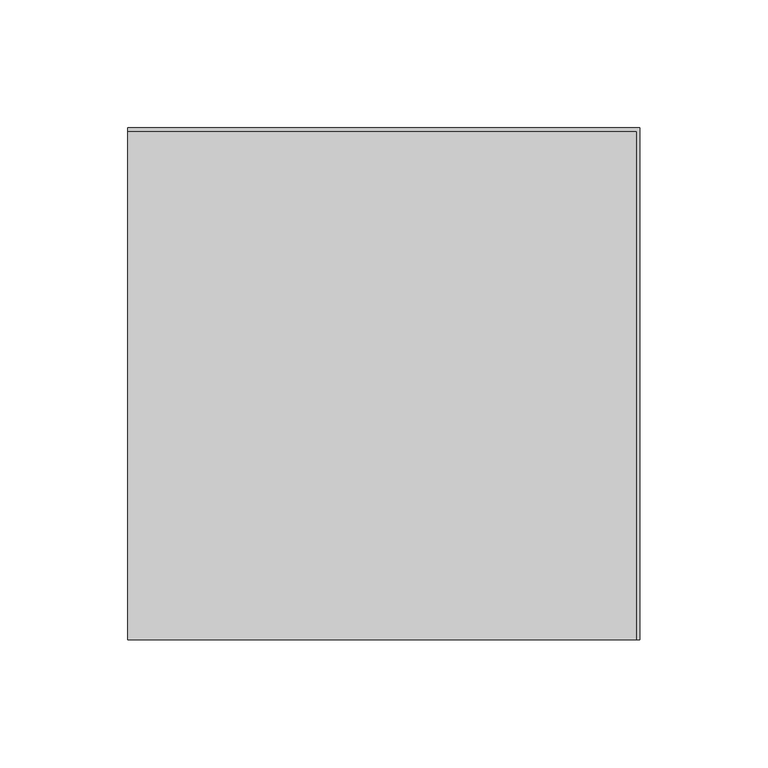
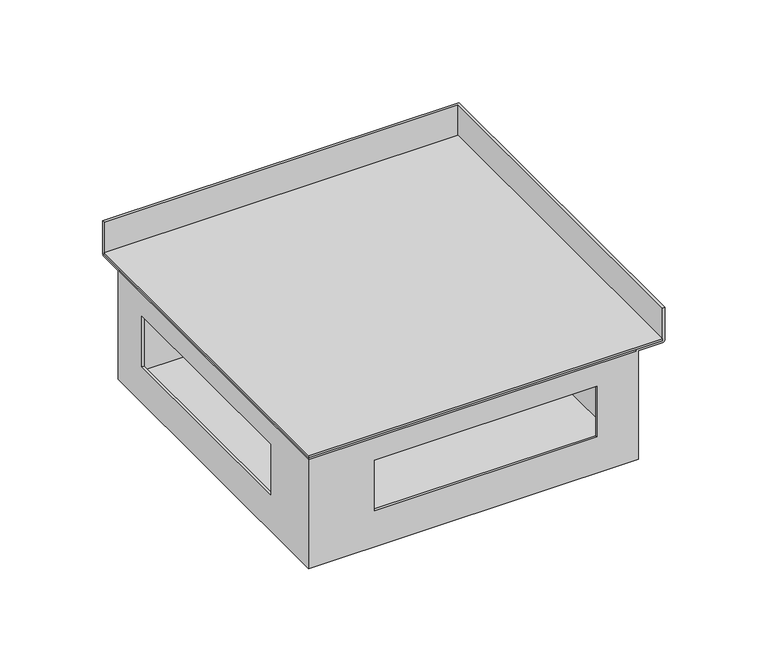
"""IFC4 building model written with IfcOpenShell, lengths in millimetres: proxy geometry, TECHNO_Угловой элемент_KVU : 200_085_90°."""

import ifcopenshell
import ifcopenshell.guid

model = None  # the IFC model being written
_history = None  # IfcOwnerHistory: only IFC2X3 demands one
_inside = {}  # id of a spatial element -> (the spatial element, [elements in it])
_under = {}  # id of a project, library or spatial element -> (it, [spatial elements below it])
_declared = {}  # id of a project -> (the project, [libraries it declares])
_typed = {}  # id of a type object -> (the type object, [elements of that type])
_made_of = {}  # id of a material, layer set ... -> (it, [elements and type objects made of it])


def new_model(schema):
    """Start an empty IFC model of exactly this schema.

    Asked for "IFC4X3", IfcOpenShell would pick the latest addendum, in which some entities
    have other attributes; the version numbers below select the first issue.
    IFC2X3 requires an IfcOwnerHistory on every rooted entity: one is made here for all.
    """
    global model, _history
    if schema == "IFC4X3":
        model = ifcopenshell.file(schema_version=(4, 3, 0, 0))
    else:
        model = ifcopenshell.file(schema=schema)
    _inside.clear()
    _under.clear()
    _declared.clear()
    _typed.clear()
    _made_of.clear()
    _history = None
    if model.schema == "IFC2X3":
        org = make("IfcOrganization", Name="unknown")
        user = make(
            "IfcPersonAndOrganization",
            ThePerson=make("IfcPerson", FamilyName="unknown"),
            TheOrganization=org,
        )
        app = make(
            "IfcApplication",
            ApplicationDeveloper=org,
            Version="unknown",
            ApplicationFullName="unknown",
            ApplicationIdentifier="unknown",
        )
        _history = make(
            "IfcOwnerHistory",
            OwningUser=user,
            OwningApplication=app,
            ChangeAction="ADDED",
            CreationDate=0,
        )
    return model


def make(cls, **values):
    """One entity of the class cls with the attributes given. An attribute that is None is left unset."""
    return model.create_entity(
        cls, **{name: value for name, value in values.items() if value is not None}
    )


def rooted(cls, **values):
    """An entity with a GlobalId (a new one), such as an element, a storey or a relation."""
    return make(cls, GlobalId=ifcopenshell.guid.new(), OwnerHistory=_history, **values)


def si_unit(unit_type, name, prefix=None):
    """IfcSIUnit, for example si_unit("LENGTHUNIT", "METRE", prefix="MILLI")."""
    return make("IfcSIUnit", UnitType=unit_type, Prefix=prefix, Name=name)


def assignment(units):
    """IfcUnitAssignment: the units of a project."""
    return None if units is None else make("IfcUnitAssignment", Units=units)


def point(xyz):
    """IfcCartesianPoint."""
    return None if xyz is None else make("IfcCartesianPoint", Coordinates=xyz)


def direction(xyz):
    """IfcDirection."""
    return None if xyz is None else make("IfcDirection", DirectionRatios=xyz)


def frame(location, z_axis=None, x_axis=None):
    """IfcAxis2Placement3D, a coordinate frame: its origin and axes. An axis left out is left unset."""
    return make(
        "IfcAxis2Placement3D",
        Location=point(location),
        Axis=direction(z_axis),
        RefDirection=direction(x_axis),
    )


def origin():
    """The frame at (0, 0, 0) with its axes left unset."""
    return frame((0.0, 0.0, 0.0))


def place(relative_to, where):
    """IfcLocalPlacement: puts the frame where relative to a parent placement (None: the world)."""
    return make(
        "IfcLocalPlacement", PlacementRelTo=relative_to, RelativePlacement=where
    )


def context(
    kind, dimensions, precision=None, world=None, true_north=None, identifier=None
):
    """IfcGeometricRepresentationContext, for example the 3D "Model" context."""
    return make(
        "IfcGeometricRepresentationContext",
        ContextIdentifier=identifier,
        ContextType=kind,
        CoordinateSpaceDimension=dimensions,
        Precision=precision,
        WorldCoordinateSystem=world,
        TrueNorth=true_north,
    )


def project(units=None, contexts=None):
    """IfcProject with its units and contexts."""
    return rooted(
        "IfcProject",
        Name="project",
        RepresentationContexts=contexts,
        UnitsInContext=assignment(units),
    )


def spatial(cls, under=None, at=None, **own):
    """A site, building, storey or space (cls), placed at a placement, below another one or the project."""
    s = rooted(cls, ObjectPlacement=at, **own)
    if under is not None:
        _under.setdefault(under.id(), (under, []))[1].append(s)
    return s


def polyline(points):
    """IfcPolyline through the points."""
    return make("IfcPolyline", Points=[point(p) for p in points])


def circle_curve(where, radius):
    """IfcCircle in the frame where."""
    return make("IfcCircle", Position=where, Radius=radius)


def ellipse_curve(where, semi_axis1, semi_axis2):
    """IfcEllipse in the frame where."""
    return make(
        "IfcEllipse", Position=where, SemiAxis1=semi_axis1, SemiAxis2=semi_axis2
    )


def outline(outer, holes=None, kind="AREA"):
    """IfcArbitraryClosedProfileDef: a profile drawn as a closed curve; with holes, ...WithVoids."""
    if holes is None:
        return make("IfcArbitraryClosedProfileDef", ProfileType=kind, OuterCurve=outer)
    return make(
        "IfcArbitraryProfileDefWithVoids",
        ProfileType=kind,
        OuterCurve=outer,
        InnerCurves=holes,
    )


def extrude(swept, where, along, depth):
    """IfcExtrudedAreaSolid: the profile swept, set in the frame where, extruded along a direction by depth."""
    return make(
        "IfcExtrudedAreaSolid",
        SweptArea=swept,
        Position=where,
        ExtrudedDirection=direction(along),
        Depth=depth,
    )


def shape(context_of_items, identifier, shape_type, items):
    """IfcShapeRepresentation: the items that make up one representation, for example the "Body"."""
    return make(
        "IfcShapeRepresentation",
        ContextOfItems=context_of_items,
        RepresentationIdentifier=identifier,
        RepresentationType=shape_type,
        Items=items,
    )


def source(mapping_origin, context_of_items, identifier, shape_type, items):
    """IfcRepresentationMap: a shape defined once, which mapped items show again and again."""
    return make(
        "IfcRepresentationMap",
        MappingOrigin=mapping_origin,
        MappedRepresentation=shape(context_of_items, identifier, shape_type, items),
    )


def transform(
    local_origin,
    x_axis=None,
    y_axis=None,
    z_axis=None,
    scale=None,
    scale2=None,
    scale3=None,
    uniform=True,
):
    """IfcCartesianTransformationOperator3D, or its non-uniform kind. x_axis, y_axis, z_axis: its Axis1, 2, 3."""
    if uniform:
        return make(
            "IfcCartesianTransformationOperator3D",
            Axis1=direction(x_axis),
            Axis2=direction(y_axis),
            LocalOrigin=point(local_origin),
            Scale=scale,
            Axis3=direction(z_axis),
        )
    return make(
        "IfcCartesianTransformationOperator3DnonUniform",
        Axis1=direction(x_axis),
        Axis2=direction(y_axis),
        LocalOrigin=point(local_origin),
        Scale=scale,
        Axis3=direction(z_axis),
        Scale2=scale2,
        Scale3=scale3,
    )


def mapped(mapping_source, mapping_target):
    """IfcMappedItem: shows the shape of a source again, moved by a transform."""
    return make(
        "IfcMappedItem", MappingSource=mapping_source, MappingTarget=mapping_target
    )


def made_of(thing, what):
    """Note that an element or type object is made of a material, layer set ...; save() writes the relation."""
    if what is not None:
        _made_of.setdefault(what.id(), (what, []))[1].append(thing)
    return thing


def element(
    cls,
    number,
    at=None,
    inside=None,
    cuts=None,
    type_object=None,
    material=None,
    context=None,
    identifier="Body",
    shape_type=None,
    held_by="IfcProductDefinitionShape",
    body=None,
    shapes=None,
    **own,
):
    """One element of the class cls, such as IfcWall. Its Tag is "e" and its number.

    at: its placement. inside: the storey or other place that contains it. cuts: it is an
    opening in that element (IfcRelVoidsElement). A single representation is given by context,
    identifier, shape_type and body (its items); several are given by shapes. held_by: the class
    of the entity that holds the representations. save() writes the other relations.
    """
    e = rooted(cls, Tag="e%d" % number, ObjectPlacement=at, **own)
    if body is not None:
        shapes = [shape(context, identifier, shape_type, body)]
    if shapes is not None:
        e.Representation = make(held_by, Representations=shapes)
    if inside is not None:
        _inside.setdefault(inside.id(), (inside, []))[1].append(e)
    if cuts is not None:
        rooted(
            "IfcRelVoidsElement", RelatingBuildingElement=cuts, RelatedOpeningElement=e
        )
    if type_object is not None:
        _typed.setdefault(type_object.id(), (type_object, []))[1].append(e)
    return made_of(e, material)


def aggregate(whole, parts):
    """IfcRelAggregates: a whole, such as a stair, and the parts it consists of."""
    return rooted("IfcRelAggregates", RelatingObject=whole, RelatedObjects=parts)


def save(model, path):
    """Write the relations noted so far, then the file.

    IfcRelAggregates (storeys below a building ...), IfcRelContainedInSpatialStructure (elements
    in a storey), IfcRelDefinesByType, IfcRelAssociatesMaterial and IfcRelDeclares: one each for
    every whole, place, type object, material and project.
    """
    for whole, parts in _under.values():
        aggregate(whole, parts)
    for where, things in _inside.values():
        rooted(
            "IfcRelContainedInSpatialStructure",
            RelatedElements=things,
            RelatingStructure=where,
        )
    for kind, things in _typed.values():
        rooted("IfcRelDefinesByType", RelatedObjects=things, RelatingType=kind)
    for what, things in _made_of.values():
        rooted("IfcRelAssociatesMaterial", RelatedObjects=things, RelatingMaterial=what)
    for by, libraries in _declared.values():
        rooted("IfcRelDeclares", RelatingContext=by, RelatedDefinitions=libraries)
    model.write(path)


def plane_surface(at):
    """IfcPlane: the flat surface through the origin of the frame at, square to its z axis."""
    return make("IfcPlane", Position=at)


def cylinder_surface(at, radius):
    """IfcCylindricalSurface: all points at the distance radius from the z axis of the frame at."""
    return make("IfcCylindricalSurface", Position=at, Radius=radius)


def advanced_brep(points, edges, surfaces, faces):
    """IfcAdvancedBrep: a solid bounded by faces that lie on surfaces and meet in shared edges.

    An edge is (start, end): straight between two places in points (the first is 0);
    or (start, end, curve); or (start, end, curve, False) where it runs against its curve.
    A face is (place in surfaces, loops), or (place, loops, False) where it looks against
    its surface's normal. A loop lists edges by number (the first is 1), with a minus sign
    where the edge is run from its end to its start. The first loop is the outer one.
    """
    corners = [point(p) for p in points]
    vertices = [make("IfcVertexPoint", VertexGeometry=c) for c in corners]
    made = []
    for start, end, *more in edges:
        made.append(
            make(
                "IfcEdgeCurve",
                EdgeStart=vertices[start],
                EdgeEnd=vertices[end],
                EdgeGeometry=more[0] if more else make("IfcPolyline", Points=[corners[start], corners[end]]),
                SameSense=more[1] if len(more) > 1 else True,
            )
        )
    hull = []
    for where, loops, *sense in faces:
        bounds = []
        for j, loop in enumerate(loops):
            ring = [make("IfcOrientedEdge", EdgeElement=made[abs(k) - 1], Orientation=k > 0) for k in loop]
            bounds.append(
                make(
                    "IfcFaceOuterBound" if j == 0 else "IfcFaceBound",
                    Bound=make("IfcEdgeLoop", EdgeList=ring),
                    Orientation=True,
                )
            )
        hull.append(make("IfcAdvancedFace", Bounds=bounds, FaceSurface=surfaces[where], SameSense=sense[0] if sense else True))
    return make("IfcAdvancedBrep", Outer=make("IfcClosedShell", CfsFaces=hull))


def mechanical_equipment_b9d91c73(model_context):
    return source(origin(), model_context, "Body", "SolidModel", [
        extrude(outline(polyline([(0.0, 98.8), (198.8, 98.8), (198.8, -100.0), (0.0, -100.0), (0.0, 98.8)])), frame((0.0, 0.0, -19.3), z_axis=(0.0, 0.0, 1.0), x_axis=(1.0, 0.0, 0.0)), (0.0, 0.0, 1.0), 1.2),
        advanced_brep(
        [(1.2, 84.0, -83.8), (1.2, -98.8, -83.8), (184.0, -98.8, -83.8), (184.0, 84.0, -83.8), (0.0, 85.2, -85.0), (185.2, 85.2, -85.0), (185.2, -100.0, -85.0), (0.0, -100.0, -85.0), (0.0, 85.2, -20.5), (0.0, -100.0, -20.5), (0.0, 84.0, -20.5), (0.0, 85.2, -19.3), (0.0, 98.8, -19.3), (0.0, 98.8, 0.0), (0.0, 100.0, 0.0), (0.0, 100.0, -19.3), (0.0, 98.8, -20.5), (0.0, -63.0, -33.5), (0.0, -63.0, -63.5), (0.0, 62.0, -63.5), (0.0, 62.0, -33.5), (185.2, -100.0, -20.5), (198.8, -100.0, -20.5), (200.0, -100.0, -19.3), (200.0, -100.0, 0.0), (198.8, -100.0, 0.0), (198.8, -100.0, -19.3), (185.2, -100.0, -19.3), (184.0, -100.0, -20.5), (37.0, -100.0, -63.5), (37.0, -100.0, -33.5), (162.0, -100.0, -33.5), (162.0, -100.0, -63.5), (185.2, 85.2, -20.5), (1.2, 85.2, -19.3), (1.2, -98.8, -19.3), (185.2, -98.8, -19.3), (198.8, 98.8, -19.3), (185.2, -84.0, -19.3), (16.0, -84.0, -19.3), (16.0, 85.2, -19.3), (185.2, 85.2, -19.3), (16.0, -84.0, -20.5), (16.0, 84.0, -20.5), (184.0, -84.0, -20.5), (184.0, -98.8, -20.5), (1.2, -98.8, -20.5), (1.2, 84.0, -20.5), (1.2, -63.0, -63.5), (1.2, -63.0, -33.5), (1.2, 62.0, -33.5), (1.2, 62.0, -63.5), (37.0, -98.8, -33.5), (37.0, -98.8, -63.5), (162.0, -98.8, -63.5), (162.0, -98.8, -33.5), (200.0, 100.0, -19.3), (200.0, 100.0, 0.0), (198.8, 98.8, 0.0), (198.8, 98.8, -20.5), (184.0, 84.0, -20.5)],
        [
            (0, 1),
            (1, 2),
            (2, 3),
            (3, 0),
            (4, 5),
            (5, 6),
            (6, 7),
            (7, 4),
            (8, 4),
            (7, 9),
            (9, 10),
            (10, 11, circle_curve(frame((0.0, 85.2, -20.5), z_axis=(-1.0, 0.0, 0.0), x_axis=(0.0, -1.0, 0.0)), 1.2)),
            (11, 12),
            (12, 13),
            (13, 14),
            (14, 15),
            (15, 16, circle_curve(frame((0.0, 98.8, -19.3), z_axis=(-1.0, 0.0, 0.0), x_axis=(0.0, -1.0, 0.0)), 1.2)),
            (16, 8),
            (17, 18),
            (18, 19),
            (19, 20),
            (20, 17),
            (6, 21),
            (21, 22),
            (22, 23, circle_curve(frame((198.8, -100.0, -19.3), z_axis=(0.0, -1.0, 0.0), x_axis=(-1.0, 0.0, 0.0)), 1.2)),
            (23, 24),
            (24, 25),
            (25, 26),
            (26, 27),
            (27, 28, circle_curve(frame((185.2, -100.0, -20.5), z_axis=(0.0, -1.0, 0.0), x_axis=(-1.0, 0.0, 0.0)), 1.2)),
            (28, 9),
            (29, 30),
            (30, 31),
            (31, 32),
            (32, 29),
            (8, 33),
            (33, 5),
            (33, 21),
            (34, 35),
            (35, 36),
            (36, 27),
            (26, 37),
            (37, 12),
            (11, 34),
            (38, 39),
            (39, 40),
            (40, 41),
            (41, 38),
            (39, 42),
            (42, 43),
            (43, 40, circle_curve(frame((16.0, 85.2, -20.5), z_axis=(-1.0, 0.0, 0.0), x_axis=(0.0, -1.0, 0.0)), 1.2)),
            (38, 44, circle_curve(frame((185.2, -84.0, -20.5), z_axis=(0.0, -1.0, 0.0), x_axis=(-1.0, 0.0, 0.0)), 1.2)),
            (44, 42),
            (44, 45),
            (45, 46),
            (46, 47),
            (47, 43),
            (46, 1),
            (0, 47),
            (48, 49),
            (49, 50),
            (50, 51),
            (51, 48),
            (45, 2),
            (52, 53),
            (53, 54),
            (54, 55),
            (55, 52),
            (34, 10, ellipse_curve(frame((1.2, 85.2, -20.5), z_axis=(0.7071067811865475, -0.7071067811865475, 0.0), x_axis=(0.7071067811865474, 0.7071067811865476, 0.0)), 1.6970563, 1.2)),
            (9, 35, ellipse_curve(frame((1.2, -98.8, -20.5), z_axis=(-0.7071067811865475, 0.7071067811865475, 0.0), x_axis=(0.7071067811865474, 0.7071067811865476, 0.0)), 1.6970563, 1.2)),
            (28, 36, ellipse_curve(frame((185.2, -98.8, -20.5), z_axis=(-0.7071067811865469, 0.7071067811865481, 0.0), x_axis=(-0.7071067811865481, -0.7071067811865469, 0.0)), 1.6970563, 1.2)),
            (23, 56),
            (56, 57),
            (57, 24),
            (57, 14),
            (13, 58),
            (58, 25),
            (58, 37),
            (16, 59),
            (59, 22),
            (59, 56, ellipse_curve(frame((198.8, 98.8, -19.3), z_axis=(0.7071067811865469, -0.7071067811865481, 0.0), x_axis=(-0.7071067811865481, -0.7071067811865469, 0.0)), 1.6970563, 1.2)),
            (56, 15),
            (41, 60, ellipse_curve(frame((185.2, 85.2, -20.5), z_axis=(0.7071067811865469, -0.7071067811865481, 0.0), x_axis=(-0.7071067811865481, -0.7071067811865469, 0.0)), 1.6970563, 1.2)),
            (60, 44),
            (60, 3),
            (43, 60),
            (48, 18),
            (17, 49),
            (51, 19),
            (50, 20),
            (52, 30),
            (29, 53),
            (55, 31),
            (54, 32),
        ],
        [
            plane_surface(frame((0.0, 84.0, -83.8), z_axis=(0.0, 0.0, 1.0), x_axis=(0.0, -1.0, 0.0))),
            plane_surface(frame((0.0, 84.0, -85.0), z_axis=(0.0, 0.0, -1.0), x_axis=(0.0, 1.0, 0.0))),
            plane_surface(frame((0.0, 84.0, -83.8), z_axis=(-1.0, 0.0, 0.0), x_axis=(0.0, 0.0, -1.0))),
            plane_surface(frame((0.0, -100.0, -83.8), z_axis=(0.0, -1.0, 0.0), x_axis=(0.0, 0.0, -1.0))),
            plane_surface(frame((0.0, 85.2, -85.0), z_axis=(0.0, 1.0, 0.0), x_axis=(0.0, 0.0, -1.0))),
            plane_surface(frame((185.2, -100.0, -85.0), z_axis=(1.0, 0.0, 0.0), x_axis=(0.0, 0.0, -1.0))),
            plane_surface(frame((1.2, 85.2, -19.3), z_axis=(0.0, 0.0, 1.0), x_axis=(0.0, -1.0, 0.0))),
            plane_surface(frame((16.0, 85.2, -19.3), z_axis=(1.0, 0.0, 0.0), x_axis=(0.0, -1.0, 0.0))),
            plane_surface(frame((16.0, -84.0, -19.3), z_axis=(0.0, 1.0, 0.0), x_axis=(1.0, 0.0, 0.0))),
            plane_surface(frame((16.0, 85.2, -20.5), z_axis=(0.0, 0.0, -1.0), x_axis=(0.0, -1.0, 0.0))),
            plane_surface(frame((1.2, 85.2, -20.5), z_axis=(1.0, 0.0, 0.0), x_axis=(0.0, -1.0, 0.0))),
            plane_surface(frame((1.2, -98.8, -20.5), z_axis=(0.0, 1.0, 0.0), x_axis=(1.0, 0.0, 0.0))),
            cylinder_surface(frame((1.2, 85.2, -20.5), z_axis=(0.0, 1.0, 0.0), x_axis=(-1.0, 0.0, 0.0)), 1.2),
            cylinder_surface(frame((0.0, -98.8, -20.5), z_axis=(-1.0, 0.0, 0.0), x_axis=(0.0, -1.0, 0.0)), 1.2),
            plane_surface(frame((200.0, -100.0, -19.3), z_axis=(1.0, 0.0, 0.0), x_axis=(0.0, 1.0, 0.0))),
            plane_surface(frame((200.0, -100.0, 0.0), z_axis=(0.0, 0.0, 1.0), x_axis=(0.0, 1.0, 0.0))),
            plane_surface(frame((198.8, -100.0, 0.0), z_axis=(-1.0, 0.0, 0.0), x_axis=(0.0, 1.0, 0.0))),
            plane_surface(frame((185.2, -100.0, -20.5), z_axis=(0.0, 0.0, -1.0), x_axis=(0.0, 1.0, 0.0))),
            cylinder_surface(frame((198.8, -100.0, -19.3), z_axis=(0.0, -1.0, 0.0), x_axis=(-1.0, 0.0, 0.0)), 1.2),
            plane_surface(frame((200.0, 100.0, -19.3), z_axis=(0.0, 1.0, 0.0), x_axis=(-1.0, 0.0, 0.0))),
            plane_surface(frame((198.8, 98.8, 0.0), z_axis=(0.0, -1.0, 0.0), x_axis=(-1.0, 0.0, 0.0))),
            cylinder_surface(frame((100.0, 98.8, -19.3), z_axis=(1.0, 0.0, 0.0), x_axis=(0.0, -1.0, 0.0)), 1.2),
            cylinder_surface(frame((185.2, -100.0, -20.5), z_axis=(0.0, -1.0, 0.0), x_axis=(-1.0, 0.0, 0.0)), 1.2),
            plane_surface(frame((184.0, -100.0, -20.5), z_axis=(-1.0, 0.0, 0.0), x_axis=(0.0, 1.0, 0.0))),
            cylinder_surface(frame((100.0, 85.2, -20.5), z_axis=(1.0, 0.0, 0.0), x_axis=(0.0, -1.0, 0.0)), 1.2),
            plane_surface(frame((184.0, 84.0, -20.5), z_axis=(0.0, -1.0, 0.0), x_axis=(-1.0, 0.0, 0.0))),
            plane_surface(frame((1.2, -63.0, -33.5), z_axis=(0.0, 1.0, 0.0), x_axis=(-1.0, 0.0, 0.0))),
            plane_surface(frame((1.2, -63.0, -63.5), z_axis=(0.0, 0.0, 1.0), x_axis=(-1.0, 0.0, 0.0))),
            plane_surface(frame((1.2, 62.0, -63.5), z_axis=(0.0, -1.0, 0.0), x_axis=(-1.0, 0.0, 0.0))),
            plane_surface(frame((1.2, 62.0, -33.5), z_axis=(0.0, 0.0, -1.0), x_axis=(-1.0, 0.0, 0.0))),
            plane_surface(frame((37.0, -98.8, -63.5), z_axis=(1.0, 0.0, 0.0), x_axis=(0.0, -1.0, 0.0))),
            plane_surface(frame((37.0, -98.8, -33.5), z_axis=(0.0, 0.0, -1.0), x_axis=(0.0, -1.0, 0.0))),
            plane_surface(frame((162.0, -98.8, -33.5), z_axis=(-1.0, 0.0, 0.0), x_axis=(0.0, -1.0, 0.0))),
            plane_surface(frame((162.0, -98.8, -63.5), z_axis=(0.0, 0.0, 1.0), x_axis=(0.0, -1.0, 0.0))),
        ],
        [
            (0, [[1, 2, 3, 4]]),
            (1, [[5, 6, 7, 8]]),
            (2, [[9, -8, 10, 11, 12, 13, 14, 15, 16, 17, 18], [19, 20, 21, 22]]),
            (3, [[23, 24, 25, 26, 27, 28, 29, 30, 31, -10, -7], [32, 33, 34, 35]]),
            (4, [[-9, 36, 37, -5]]),
            (5, [[-23, -6, -37, 38]]),
            (6, [[39, 40, 41, -29, 42, 43, -13, 44], [45, 46, 47, 48]]),
            (7, [[-46, 49, 50, 51]]),
            (8, [[-45, 52, 53, -49]]),
            (9, [[-50, -53, 54, 55, 56, 57]]),
            (10, [[58, -1, 59, -56], [60, 61, 62, 63]]),
            (11, [[-58, -55, 64, -2], [65, 66, 67, 68]]),
            (12, [[-39, 69, -11, 70]]),
            (13, [[-40, -70, -31, 71]]),
            (14, [[-26, 72, 73, 74]]),
            (15, [[-27, -74, 75, -15, 76, 77]]),
            (16, [[-28, -77, 78, -42]]),
            (17, [[-24, -38, -36, -18, 79, 80]]),
            (18, [[-25, -80, 81, -72]]),
            (19, [[-73, 82, -16, -75]]),
            (20, [[-76, -14, -43, -78]]),
            (21, [[-79, -17, -82, -81]]),
            (22, [[-30, -41, -71]]),
            (22, [[83, 84, -52, -48]]),
            (23, [[85, -3, -64, -54, -84]]),
            (24, [[-12, -69, -44]]),
            (24, [[-83, -47, -51, 86]]),
            (25, [[-85, -86, -57, -59, -4]]),
            (26, [[87, -19, 88, -60]]),
            (27, [[-87, -63, 89, -20]]),
            (28, [[-89, -62, 90, -21]]),
            (29, [[-88, -22, -90, -61]]),
            (30, [[91, -32, 92, -65]]),
            (31, [[-91, -68, 93, -33]]),
            (32, [[-93, -67, 94, -34]]),
            (33, [[-92, -35, -94, -66]]),
        ],
    ),
    ])


if __name__ == "__main__":
    model = new_model("IFC4")
    model_context = context("Model", 3, world=origin())
    ifc_project = project(units=[si_unit("LENGTHUNIT", "METRE", prefix="MILLI")], contexts=[model_context])
    site = spatial("IfcSite", under=ifc_project)
    building = spatial("IfcBuilding", under=site)
    placement = place(None, origin())
    mechanical_equipment_shape = mechanical_equipment_b9d91c73(model_context)
    element("IfcBuildingElementProxy", 1, Name="TECHNO_Угловой элемент_KVU : 200_085_90°", ObjectType="TECHNO_Угловой элемент_KVU : 200_085_90°", at=placement, inside=building, context=model_context, shape_type="MappedRepresentation", body=[
        mapped(mechanical_equipment_shape, transform((0.0, 0.0, 0.0), x_axis=(1.0, 0.0, 0.0), y_axis=(0.0, 1.0, 0.0), z_axis=(0.0, 0.0, 1.0))),
    ])
    save(model, "model.ifc")
